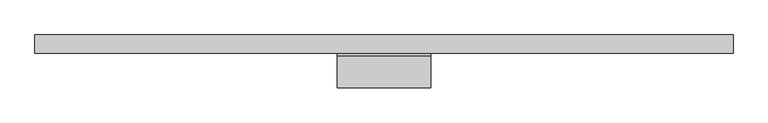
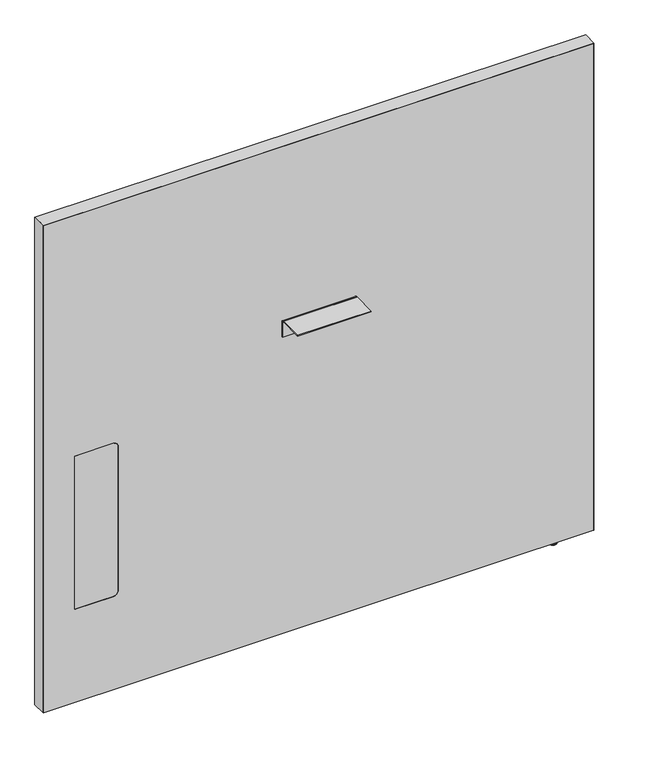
"""IFC4 building model written with IfcOpenShell, lengths in millimetres: furniture geometry, Steelcase - Answer Solution - Boundary Screen - Straight - Single Sided : 42H x 45W."""

from ifc_helpers import new_model, si_unit, point, frame, frame_2d, origin, place, context, project, spatial, polyline, circle_curve, ellipse_curve, trimmed, segment, composite_curve, outline, extrude, source, transform, mapped, element, save
from ifc_brep_helpers import plane_surface, cylinder_surface, revolved_surface, advanced_brep


def furniture_94790fd2(model_context):
    return source(origin(), model_context, "Body", "SolidModel", [
        extrude(outline(composite_curve([segment(polyline([(-86.8398151, 696.4680019), (-86.8398151, 698.5), (-34.9450855, 698.5)]), True, "CONTINUOUS"), segment(trimmed(circle_curve(frame_2d((-34.9450855, 693.2447477)), 5.2552523), [point((-34.9450855, 698.5))], [point((-29.6898332, 693.2447477))], False, "CARTESIAN"), True, "CONTINUOUS"), segment(polyline([(-29.6898332, 693.2447477), (-29.6898332, 660.4), (-31.7218162, 660.4), (-31.7218162, 693.0058743)]), True, "CONTINUOUS"), segment(trimmed(circle_curve(frame_2d((-35.1839438, 693.0058743)), 3.4621276), [point((-31.7218162, 693.0058743))], [point((-35.1839438, 696.4680019))], True, "CARTESIAN"), True, "CONTINUOUS"), segment(polyline([(-35.1839438, 696.4680019), (-86.8398151, 696.4680019)]), True, "CONTINUOUS")], self_intersect=False)), frame((-151.1808593, 0.0, 0.0), z_axis=(1.0, 0.0, 0.0), x_axis=(0.0, 1.0, 0.0)), (0.0, 0.0, 1.0), 152.4000969),
        advanced_brep(
        [(419.3286488, -23.7588726, 9.9059849), (419.3286488, -5.9309607, 9.9059849), (419.3286488, -14.8449166, 9.9059849), (419.3286488, -23.7588726, 2.9673238), (419.3286488, -5.9309607, 2.9673238), (419.3286488, -22.7915354, 2.9673238), (419.3286488, -6.8982978, 2.9673238), (419.3286488, -22.7915354, 1.6569081), (419.3286488, -6.8982978, 1.6569081), (419.3286488, -21.1346274, 0.0), (419.3286488, -8.5552059, 0.0), (419.3286488, -14.8449166, 0.0)],
        [
            (0, 1, circle_curve(frame((419.3286488, -14.8449166, 9.9059849), z_axis=(0.0, 0.0, 1.0), x_axis=(0.0, 1.0, 0.0)), 8.913956)),
            (1, 2),
            (2, 0),
            (1, 0, circle_curve(frame((419.3286488, -14.8449166, 9.9059849), z_axis=(0.0, 0.0, 1.0), x_axis=(0.0, 1.0, 0.0)), 8.913956)),
            (3, 4, circle_curve(frame((419.3286488, -14.8449166, 2.9673238), z_axis=(0.0, 0.0, 1.0), x_axis=(0.0, 1.0, 0.0)), 8.913956)),
            (4, 1),
            (0, 3),
            (4, 3, circle_curve(frame((419.3286488, -14.8449166, 2.9673238), z_axis=(0.0, 0.0, 1.0), x_axis=(0.0, 1.0, 0.0)), 8.913956)),
            (5, 6, circle_curve(frame((419.3286488, -14.8449166, 2.9673238), z_axis=(0.0, 0.0, 1.0), x_axis=(0.0, 1.0, 0.0)), 7.9466188)),
            (6, 4),
            (3, 5),
            (6, 5, circle_curve(frame((419.3286488, -14.8449166, 2.9673238), z_axis=(0.0, 0.0, 1.0), x_axis=(0.0, 1.0, 0.0)), 7.9466188)),
            (7, 8, circle_curve(frame((419.3286488, -14.8449166, 1.6569081), z_axis=(0.0, 0.0, 1.0), x_axis=(0.0, 1.0, 0.0)), 7.9466188)),
            (8, 6),
            (5, 7),
            (8, 7, circle_curve(frame((419.3286488, -14.8449166, 1.6569081), z_axis=(0.0, 0.0, 1.0), x_axis=(0.0, 1.0, 0.0)), 7.9466188)),
            (9, 10, circle_curve(frame((419.3286488, -14.8449166, 0.0), z_axis=(0.0, 0.0, 1.0), x_axis=(0.0, 1.0, 0.0)), 6.2897107)),
            (10, 8, circle_curve(frame((419.3286488, -8.5552059, 1.6569081), z_axis=(1.0, 0.0, 0.0), x_axis=(0.0, 1.0, 0.0)), 1.6569081)),
            (7, 9, circle_curve(frame((419.3286488, -21.1346274, 1.6569081), z_axis=(1.0, 0.0, 0.0), x_axis=(0.0, -1.0, 0.0)), 1.6569081)),
            (10, 9, circle_curve(frame((419.3286488, -14.8449166, 0.0), z_axis=(0.0, 0.0, 1.0), x_axis=(0.0, 1.0, 0.0)), 6.2897107)),
            (11, 10),
            (9, 11),
        ],
        [
            plane_surface(frame((419.3286488, -14.8449166, 9.9059849), z_axis=(0.0, 0.0, 1.0), x_axis=(0.0, 1.0, 0.0))),
            cylinder_surface(frame((419.3286488, -14.8449166, 9.9059849), z_axis=(0.0, 0.0, -1.0), x_axis=(0.0, 1.0, 0.0)), 8.913956),
            plane_surface(frame((419.3286488, -14.8449166, 2.9673238), z_axis=(0.0, 0.0, -1.0), x_axis=(0.0, 1.0, 0.0))),
            cylinder_surface(frame((419.3286488, -14.8449166, 9.9059849), z_axis=(0.0, 0.0, -1.0), x_axis=(0.0, 1.0, 0.0)), 7.9466188),
            revolved_surface(trimmed(ellipse_curve(frame((419.3286488, -8.5552059, 1.6569081), z_axis=(-1.0, 0.0, 0.0), x_axis=(0.0, 1.0, 0.0)), 1.6569081, 1.6569081), [point((419.3286488, -6.8982978, 1.6569081))], [point((419.3286488, -8.5552059, 0.0))], True, "CARTESIAN"), (419.3286488, -14.8449166, 9.9059849), (0.0, 0.0, -1.0)),
            plane_surface(frame((419.3286488, -14.8449166, 0.0), z_axis=(0.0, 0.0, -1.0), x_axis=(0.0, 1.0, 0.0))),
        ],
        [
            (0, [[1, 2, 3]]),
            (0, [[4, -3, -2]]),
            (1, [[5, 6, -1, 7]]),
            (1, [[8, -7, -4, -6]]),
            (2, [[9, 10, -5, 11]]),
            (2, [[12, -11, -8, -10]]),
            (3, [[13, 14, -9, 15]]),
            (3, [[16, -15, -12, -14]]),
            (4, [[17, 18, -13, 19]]),
            (4, [[20, -19, -16, -18]]),
            (5, [[21, -17, 22]]),
            (5, [[-22, -20, -21]]),
        ],
    ),
        advanced_brep(
        [(495.4780168, 0.0, 1076.742118), (495.4780168, 0.0, 9.9059849), (-645.4902221, 0.0, 9.9059849), (-645.4902221, 0.0, 1076.742118), (495.4780168, -29.6898332, 1076.742118), (-645.4902221, -29.6898332, 1076.742118), (-645.4902221, -29.6898332, 9.9059849), (495.4780168, -29.6898332, 9.9059849), (-501.1463873, -29.6898332, 549.6162029), (-490.9863873, -29.6898332, 539.4562029), (-490.9863873, -29.6898332, 223.9362137), (-501.1463873, -29.6898332, 213.7762137), (-580.800285, -29.6898332, 213.7762137), (-580.800285, -29.6898332, 549.6162029), (-580.800285, -29.0550397, 549.6162029), (-501.1463873, -29.0550397, 549.6162029), (-580.800285, -29.0550397, 213.7762137), (-501.1463873, -29.0550397, 213.7762137), (-490.9863873, -29.0550397, 223.9362137), (-490.9863873, -29.0550397, 539.4562029)],
        [
            (0, 1),
            (1, 2),
            (2, 3),
            (3, 0),
            (4, 5),
            (5, 6),
            (6, 7),
            (7, 4),
            (8, 9, circle_curve(frame((-501.1463873, -29.6898332, 539.4562029), z_axis=(0.0, 1.0, 0.0), x_axis=(0.0, 0.0, 1.0)), 10.16)),
            (9, 10),
            (10, 11, circle_curve(frame((-501.1463873, -29.6898332, 223.9362137), z_axis=(0.0, 1.0, 0.0), x_axis=(0.0, 0.0, 1.0)), 10.16)),
            (11, 12),
            (12, 13),
            (13, 8),
            (0, 4),
            (7, 1),
            (6, 2),
            (5, 3),
            (13, 14),
            (14, 15),
            (15, 8),
            (12, 16),
            (16, 14),
            (11, 17),
            (17, 16),
            (10, 18),
            (18, 17, circle_curve(frame((-501.1463873, -29.0550397, 223.9362137), z_axis=(0.0, 1.0, 0.0), x_axis=(0.0, 0.0, 1.0)), 10.16)),
            (9, 19),
            (19, 18),
            (15, 19, circle_curve(frame((-501.1463873, -29.0550397, 539.4562029), z_axis=(0.0, 1.0, 0.0), x_axis=(0.0, 0.0, 1.0)), 10.16)),
        ],
        [
            plane_surface(frame((495.4780168, 0.0, 1076.742118), z_axis=(0.0, 1.0, 0.0), x_axis=(0.0, 0.0, -1.0))),
            plane_surface(frame((495.4780168, -29.6898332, 1076.742118), z_axis=(0.0, -1.0, 0.0), x_axis=(0.0, 0.0, 1.0))),
            plane_surface(frame((495.4780168, 0.0, 1076.742118), z_axis=(1.0, 0.0, 0.0), x_axis=(0.0, -1.0, 0.0))),
            plane_surface(frame((495.4780168, 0.0, 9.9059849), z_axis=(0.0, 0.0, -1.0), x_axis=(0.0, -1.0, 0.0))),
            plane_surface(frame((-645.4902221, 0.0, 9.9059849), z_axis=(-1.0, 0.0, 0.0), x_axis=(0.0, -1.0, 0.0))),
            plane_surface(frame((-645.4902221, 0.0, 1076.742118), z_axis=(0.0, 0.0, 1.0), x_axis=(0.0, -1.0, 0.0))),
            plane_surface(frame((-501.1463873, 0.0, 549.6162029), z_axis=(0.0, 0.0, -1.0), x_axis=(0.0, -1.0, 0.0))),
            plane_surface(frame((-580.800285, 0.0, 549.6162029), z_axis=(1.0, 0.0, 0.0), x_axis=(0.0, -1.0, 0.0))),
            plane_surface(frame((-580.800285, 0.0, 213.7762137), z_axis=(0.0, 0.0, 1.0), x_axis=(0.0, -1.0, 0.0))),
            revolved_surface(polyline([(-501.1463873, -29.6898332, 234.0962137), (-501.1463873, -29.0550397, 234.0962137)]), (-501.1463873, -29.6898332, 223.9362137), (0.0, -1.0, 0.0)),
            plane_surface(frame((-490.9863873, 0.0, 223.9362137), z_axis=(-1.0, 0.0, 0.0), x_axis=(0.0, -1.0, 0.0))),
            revolved_surface(polyline([(-501.1463873, -29.6898332, 549.6162029), (-501.1463873, -29.0550397, 549.6162029)]), (-501.1463873, -29.6898332, 539.4562029), (0.0, -1.0, 0.0)),
            plane_surface(frame((-490.9863873, -29.0550397, 629.172953), z_axis=(0.0, -1.0, 0.0), x_axis=(0.0, 0.0, 1.0))),
        ],
        [
            (0, [[1, 2, 3, 4]]),
            (1, [[5, 6, 7, 8], [9, 10, 11, 12, 13, 14]]),
            (2, [[-1, 15, -8, 16]]),
            (3, [[-2, -16, -7, 17]]),
            (4, [[-3, -17, -6, 18]]),
            (5, [[-4, -18, -5, -15]]),
            (6, [[-14, 19, 20, 21]]),
            (7, [[-13, 22, 23, -19]]),
            (8, [[-12, 24, 25, -22]]),
            (9, [[-11, 26, 27, -24]]),
            (10, [[-10, 28, 29, -26]]),
            (11, [[-9, -21, 30, -28]]),
            (12, [[-20, -23, -25, -27, -29, -30]]),
        ],
    ),
        extrude(outline(composite_curve([segment(polyline([(549.6162029, -501.1463873), (549.6162029, -580.800285), (213.7762137, -580.800285), (213.7762137, -501.1463873)]), True, "CONTINUOUS"), segment(trimmed(circle_curve(frame_2d((223.9362137, -501.1463873)), 10.16), [point((213.7762137, -501.1463873))], [point((223.9362137, -490.9863873))], False, "CARTESIAN"), True, "CONTINUOUS"), segment(polyline([(223.9362137, -490.9863873), (539.4562029, -490.9863873)]), True, "CONTINUOUS"), segment(trimmed(circle_curve(frame_2d((539.4562029, -501.1463873)), 10.16), [point((539.4562029, -490.9863873))], [point((549.6162029, -501.1463873))], False, "CARTESIAN"), True, "CONTINUOUS")], self_intersect=False)), frame((0.0, -29.6898332, 0.0), z_axis=(0.0, 1.0, 0.0), x_axis=(0.0, 0.0, 1.0)), (0.0, 0.0, 1.0), 0.6347935),
        extrude(outline(polyline([(1077.722, 496.5191891), (1077.722, -646.4808109), (9.9059849, -646.4808109), (9.9059849, -645.4902221), (1076.742118, -645.4902221), (1076.742118, 495.4780168), (9.9059849, 495.4780168), (9.9059849, 496.5191891), (1077.722, 496.5191891)])), frame((0.0, -29.6898332, 0.0), z_axis=(0.0, 1.0, 0.0), x_axis=(0.0, 0.0, 1.0)), (0.0, 0.0, 1.0), 29.6898332),
    ])


if __name__ == "__main__":
    model = new_model("IFC4")
    model_context = context("Model", 3, world=origin())
    ifc_project = project(units=[si_unit("LENGTHUNIT", "METRE", prefix="MILLI")], contexts=[model_context])
    site = spatial("IfcSite", under=ifc_project)
    building = spatial("IfcBuilding", under=site)
    placement = place(None, origin())
    furniture_shape = furniture_94790fd2(model_context)
    element("IfcFurniture", 1, ObjectType="Steelcase - Answer Solution - Boundary Screen - Straight - Single Sided : 42H x 45W", at=placement, inside=building, context=model_context, shape_type="MappedRepresentation", body=[
        mapped(furniture_shape, transform((0.0, 0.0, 0.0), x_axis=(1.0, 0.0, 0.0), y_axis=(0.0, 1.0, 0.0), z_axis=(0.0, 0.0, 1.0))),
    ])
    save(model, "model.ifc")
